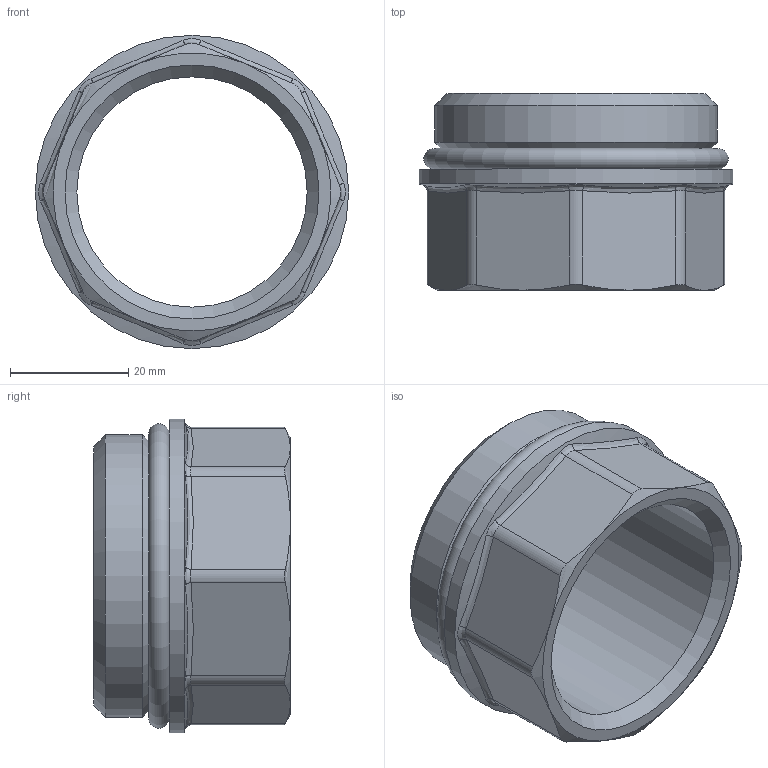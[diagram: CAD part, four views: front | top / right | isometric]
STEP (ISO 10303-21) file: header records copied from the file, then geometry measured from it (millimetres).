
FILE_DESCRIPTION(('STEP AP242'), '1');
FILE_NAME('覆.302634.091.000 捘 - VTr.585.N.0807', '', ('UNSPECIFIED'), ('UNSPECIFIED'), 'C3D Converter', 'C3D Toolkit', '');
FILE_SCHEMA(('AP242_MANAGED_MODEL_BASED_3D_ENGINEERING_MIM_LF { 1 0 10303 442 1 1 4 }'));
Length unit declared in the file: millimetre
Products named in the file (3): ВР.302634.091.000 СБ; ВР.753157.034
Assembly tree (2 placements, depth 2):
  ВР.302634.091.000 СБ
    ВР.753157.034
    (unnamed)
Bounding box: 53 x 33.3 x 53 mm (x, y, z)
Volume: 21854.9 mm3; surface area: 12605.8 mm2
Topology: 2 solids, 2 shells, 51 faces, 125 edges, 79 vertices
Faces by surface type: bspline 16, cylinder 12, plane 11, cone 9, torus 3
Full cylindrical faces by diameter (mm): 38.953 x1, 44.5 x1, 47.803 x1, 53 x1
Entity records: 3473 total; most frequent: CARTESIAN_POINT 2343, ORIENTED_EDGE 204, DIRECTION 142, EDGE_CURVE 102, B_SPLINE_CURVE_WITH_KNOTS 71, VERTEX_POINT 66, EDGE_LOOP 64, AXIS2_PLACEMENT_3D 63
